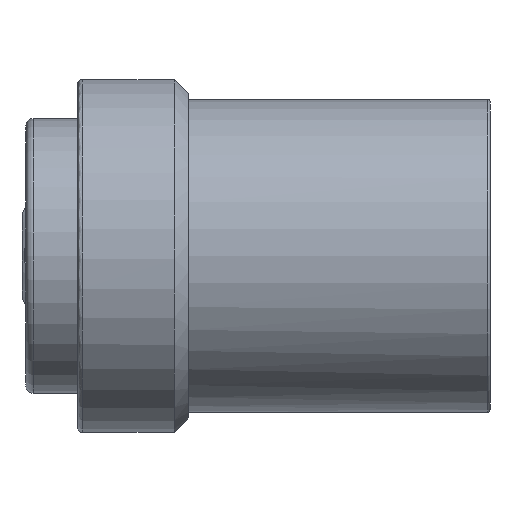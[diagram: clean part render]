
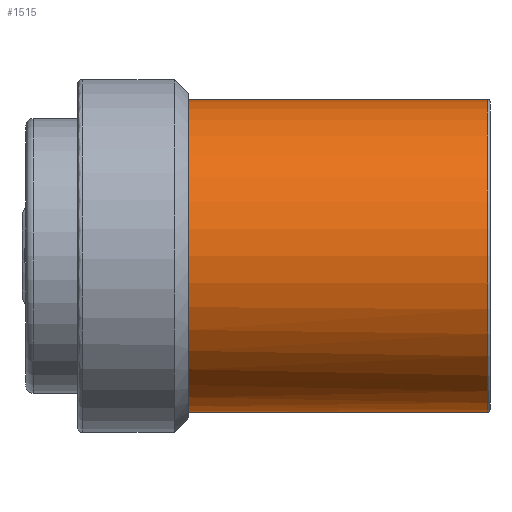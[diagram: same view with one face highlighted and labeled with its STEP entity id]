
A CAD part, left-side view. The second image highlights one B-rep face of the part: STEP entity #1515.
In plain terms, the highlighted cylindrical face has radius 8.433 mm (diameter 16.866 mm), a full revolution.
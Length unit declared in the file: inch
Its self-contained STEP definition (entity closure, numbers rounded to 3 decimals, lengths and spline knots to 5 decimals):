
#70=B_SPLINE_CURVE_WITH_KNOTS('',3,(#2670,#2671,#2672,#2673,#2674,#2675,
#2676,#2677,#2678,#2679,#2680,#2681,#2682,#2683),.UNSPECIFIED.,.F.,.F.,
(4,2,2,2,2,2,4),(0.14857,0.16937,0.33875,
0.52881,0.71888,0.87824,0.91075),
 .UNSPECIFIED.);
#75=B_SPLINE_CURVE_WITH_KNOTS('',3,(#2755,#2756,#2757,#2758,#2759,#2760,
#2761,#2762,#2763,#2764,#2765,#2766,#2767,#2768,#2769,#2770,#2771,#2772),
 .UNSPECIFIED.,.F.,.F.,(4,2,2,2,2,2,2,2,4),(0.10827,0.16024,
0.32048,0.48031,0.64013,0.79996,
0.95979,1.12003,1.28027),.UNSPECIFIED.);
#136=LINE('',#2773,#197);
#137=LINE('',#2775,#198);
#197=VECTOR('',#2059,0.3937);
#198=VECTOR('',#2060,0.332);
#243=CYLINDRICAL_SURFACE('',#1698,0.332);
#310=FACE_OUTER_BOUND('',#401,.T.);
#401=EDGE_LOOP('',(#1170,#1171,#1172,#1173,#1174,#1175,#1176,#1177,#1178,
#1179));
#505=CIRCLE('',#1687,0.332);
#510=CIRCLE('',#1696,0.332);
#511=CIRCLE('',#1697,0.332);
#512=CIRCLE('',#1699,0.332);
#513=CIRCLE('',#1700,0.332);
#655=VERTEX_POINT('',#2667);
#656=VERTEX_POINT('',#2669);
#662=VERTEX_POINT('',#2719);
#667=VERTEX_POINT('',#2748);
#668=VERTEX_POINT('',#2750);
#669=VERTEX_POINT('',#2754);
#670=VERTEX_POINT('',#2774);
#671=VERTEX_POINT('',#2776);
#837=EDGE_CURVE('',#656,#655,#70,.T.);
#846=EDGE_CURVE('',#655,#662,#505,.T.);
#854=EDGE_CURVE('',#656,#667,#510,.T.);
#855=EDGE_CURVE('',#667,#668,#511,.T.);
#857=EDGE_CURVE('',#662,#669,#75,.T.);
#858=EDGE_CURVE('',#669,#668,#136,.T.);
#859=EDGE_CURVE('',#667,#670,#137,.T.);
#860=EDGE_CURVE('',#671,#670,#512,.T.);
#861=EDGE_CURVE('',#670,#671,#513,.T.);
#1170=ORIENTED_EDGE('',*,*,#837,.T.);
#1171=ORIENTED_EDGE('',*,*,#846,.T.);
#1172=ORIENTED_EDGE('',*,*,#857,.T.);
#1173=ORIENTED_EDGE('',*,*,#858,.T.);
#1174=ORIENTED_EDGE('',*,*,#855,.F.);
#1175=ORIENTED_EDGE('',*,*,#859,.T.);
#1176=ORIENTED_EDGE('',*,*,#860,.F.);
#1177=ORIENTED_EDGE('',*,*,#861,.F.);
#1178=ORIENTED_EDGE('',*,*,#859,.F.);
#1179=ORIENTED_EDGE('',*,*,#854,.F.);
#1515=ADVANCED_FACE('',(#310),#243,.T.);
#1687=AXIS2_PLACEMENT_3D('',#2721,#2033,#2034);
#1696=AXIS2_PLACEMENT_3D('',#2749,#2052,#2053);
#1697=AXIS2_PLACEMENT_3D('',#2751,#2054,#2055);
#1698=AXIS2_PLACEMENT_3D('',#2753,#2057,#2058);
#1699=AXIS2_PLACEMENT_3D('',#2777,#2061,#2062);
#1700=AXIS2_PLACEMENT_3D('',#2778,#2063,#2064);
#2033=DIRECTION('center_axis',(-0.001,-1.,
0.));
#2034=DIRECTION('ref_axis',(-0.906,0.001,0.423));
#2052=DIRECTION('center_axis',(0.,1.,0.));
#2053=DIRECTION('ref_axis',(1.,0.,0.));
#2054=DIRECTION('center_axis',(0.,1.,0.));
#2055=DIRECTION('ref_axis',(1.,0.,0.));
#2057=DIRECTION('center_axis',(0.,1.,0.));
#2058=DIRECTION('ref_axis',(0.,0.,1.));
#2059=DIRECTION('',(0.,1.,0.));
#2060=DIRECTION('',(0.,-1.,0.));
#2061=DIRECTION('center_axis',(0.,-1.,0.));
#2062=DIRECTION('ref_axis',(0.,0.,-1.));
#2063=DIRECTION('center_axis',(0.,-1.,0.));
#2064=DIRECTION('ref_axis',(0.,0.,-1.));
#2667=CARTESIAN_POINT('',(0.1772,0.54881,0.28076));
#2669=CARTESIAN_POINT('',(0.32634,0.64,0.06103));
#2670=CARTESIAN_POINT('Ctrl Pts',(0.32634,0.64,0.06103));
#2671=CARTESIAN_POINT('Ctrl Pts',(0.32607,0.63761,0.06248));
#2672=CARTESIAN_POINT('Ctrl Pts',(0.32578,0.63524,0.064));
#2673=CARTESIAN_POINT('Ctrl Pts',(0.32286,0.61396,0.07847));
#2674=CARTESIAN_POINT('Ctrl Pts',(0.31846,0.59722,0.09549));
#2675=CARTESIAN_POINT('Ctrl Pts',(0.30577,0.56871,0.13086));
#2676=CARTESIAN_POINT('Ctrl Pts',(0.29599,0.55526,0.15241));
#2677=CARTESIAN_POINT('Ctrl Pts',(0.27005,0.53655,0.19472));
#2678=CARTESIAN_POINT('Ctrl Pts',(0.25381,0.53134,0.21546));
#2679=CARTESIAN_POINT('Ctrl Pts',(0.2216,0.53134,0.2481));
#2680=CARTESIAN_POINT('Ctrl Pts',(0.20442,0.53512,0.26241));
#2681=CARTESIAN_POINT('Ctrl Pts',(0.18404,0.54496,0.27635));
#2682=CARTESIAN_POINT('Ctrl Pts',(0.1806,0.54681,0.27861));
#2683=CARTESIAN_POINT('Ctrl Pts',(0.1772,0.54881,0.28076));
#2719=CARTESIAN_POINT('',(0.15821,0.54882,0.29188));
#2721=CARTESIAN_POINT('Origin',(0.,0.54884,0.));
#2748=CARTESIAN_POINT('',(0.,0.64,-0.332));
#2749=CARTESIAN_POINT('Origin',(0.,0.64,0.));
#2750=CARTESIAN_POINT('',(-0.164,0.64,0.28867));
#2751=CARTESIAN_POINT('Origin',(0.,0.64,0.));
#2753=CARTESIAN_POINT('Origin',(0.,0.32,0.));
#2754=CARTESIAN_POINT('',(-0.164,0.592,0.28867));
#2755=CARTESIAN_POINT('Ctrl Pts',(0.15821,0.54882,0.29188));
#2756=CARTESIAN_POINT('Ctrl Pts',(0.15635,0.54199,0.29289));
#2757=CARTESIAN_POINT('Ctrl Pts',(0.15403,0.53526,0.29412));
#2758=CARTESIAN_POINT('Ctrl Pts',(0.14289,0.5086,0.29983));
#2759=CARTESIAN_POINT('Ctrl Pts',(0.13034,0.49041,0.30573));
#2760=CARTESIAN_POINT('Ctrl Pts',(0.10162,0.46169,0.31643));
#2761=CARTESIAN_POINT('Ctrl Pts',(0.08342,0.44912,
0.322));
#2762=CARTESIAN_POINT('Ctrl Pts',(0.04311,0.43227,
0.32983));
#2763=CARTESIAN_POINT('Ctrl Pts',(0.02097,0.428,0.332));
#2764=CARTESIAN_POINT('Ctrl Pts',(-0.02097,0.428,0.332));
#2765=CARTESIAN_POINT('Ctrl Pts',(-0.04311,0.43227,
0.32983));
#2766=CARTESIAN_POINT('Ctrl Pts',(-0.08342,0.44912,
0.322));
#2767=CARTESIAN_POINT('Ctrl Pts',(-0.10162,0.46169,
0.31643));
#2768=CARTESIAN_POINT('Ctrl Pts',(-0.13034,0.49041,0.30573));
#2769=CARTESIAN_POINT('Ctrl Pts',(-0.14289,0.5086,
0.29983));
#2770=CARTESIAN_POINT('Ctrl Pts',(-0.15972,0.54886,
0.29121));
#2771=CARTESIAN_POINT('Ctrl Pts',(-0.164,0.57097,0.28867));
#2772=CARTESIAN_POINT('Ctrl Pts',(-0.164,0.592,0.28867));
#2773=CARTESIAN_POINT('',(-0.164,0.32,0.28867));
#2774=CARTESIAN_POINT('',(0.,0.005,-0.332));
#2775=CARTESIAN_POINT('',(0.,0.32,-0.332));
#2776=CARTESIAN_POINT('',(0.,0.005,0.332));
#2777=CARTESIAN_POINT('Origin',(0.,0.005,0.));
#2778=CARTESIAN_POINT('Origin',(0.,0.005,0.));
